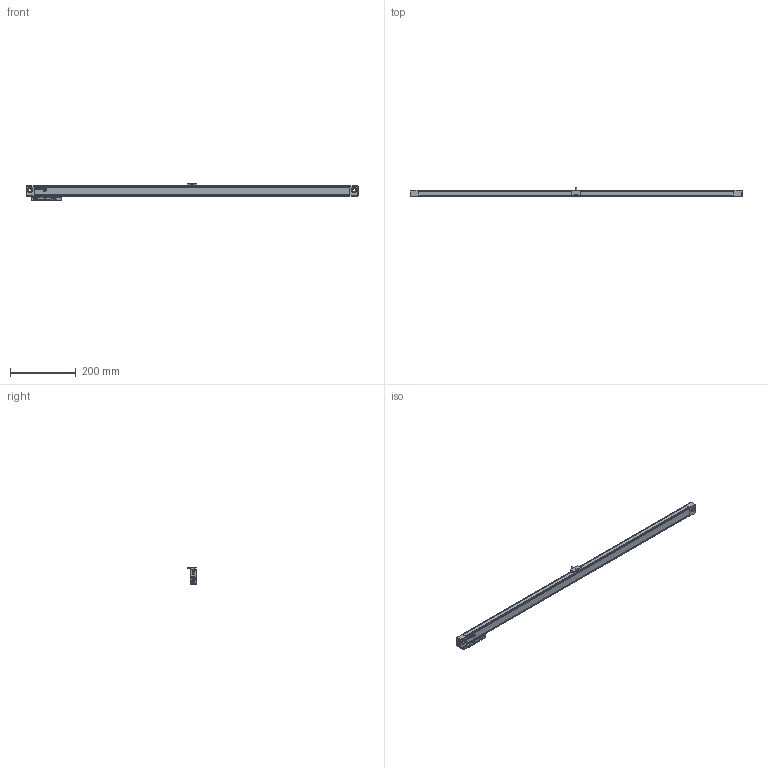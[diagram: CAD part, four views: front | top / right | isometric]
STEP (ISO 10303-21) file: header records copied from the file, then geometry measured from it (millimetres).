
FILE_DESCRIPTION(('Creo Elements/Direct Modeling STEP Export'),'2;1');
FILE_NAME('REGLA_S3-870-T.stp','2020-10-07T15:15:54',(''),(''),'Creo Elements/Direct Modeling STEP processor for AP214 (Solid Model)','Creo Elements/Direct Modeling 19.0G 27-Nov-2017 (C) Parametric Technology GmbH','');
FILE_SCHEMA(('AUTOMOTIVE_DESIGN { 1 0 10303 214 1 1 1 1 }'));
Length unit declared in the file: millimetre
Products named in the file (4): SOPORTE_INTERMEDIO_S3; REGLA_S3-870; CABEZA_ROSCADA_REGLA_S3; REGLA_S3-870-T
Assembly tree (3 placements, depth 2):
  REGLA_S3-870-T
    CABEZA_ROSCADA_REGLA_S3
    REGLA_S3-870
    SOPORTE_INTERMEDIO_S3
Bounding box: 1008 x 26.5 x 53.7 mm (x, y, z)
Volume: 562119.8 mm3; surface area: 138076.3 mm2
Topology: 3 solids, 14 shells, 1525 faces, 4991 edges, 3567 vertices
Faces by surface type: plane 1015, cylinder 368, cone 123, torus 10, bspline 9
Entity records: 64598 total; most frequent: CARTESIAN_POINT 12915, ORIENTED_EDGE 9958, DIRECTION 8020, EDGE_CURVE 4977, VECTOR 3762, LINE 3762, VERTEX_POINT 3565, AXIS2_PLACEMENT_3D 2129
